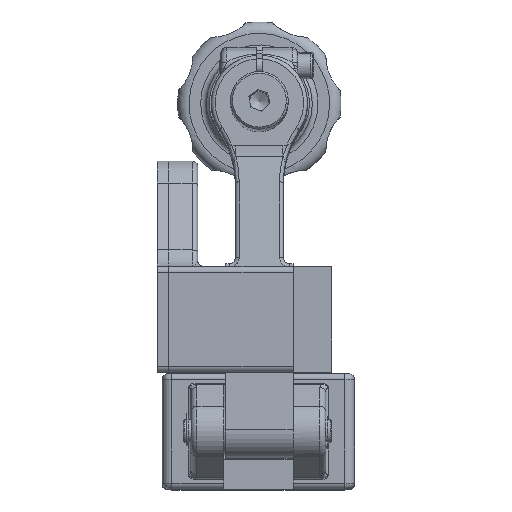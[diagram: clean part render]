
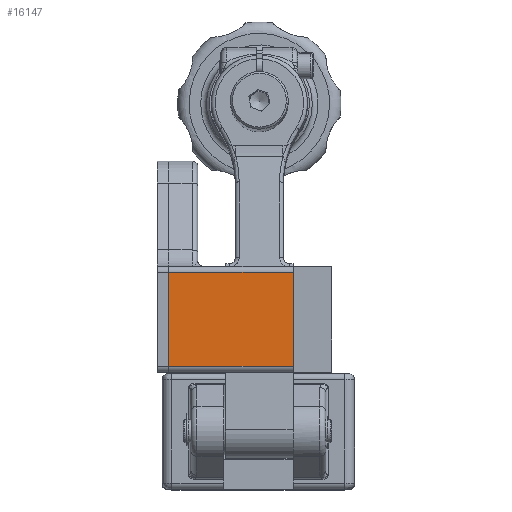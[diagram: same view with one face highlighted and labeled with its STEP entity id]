
A CAD part, top view. The second image highlights one B-rep face of the part: STEP entity #16147.
In plain terms, the highlighted planar face has unit normal (0, 0, 1).
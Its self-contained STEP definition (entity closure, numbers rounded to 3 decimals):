
#847=PLANE('',#17729);
#1534=FACE_OUTER_BOUND('',#2495,.T.);
#2495=EDGE_LOOP('',(#13070,#13071,#13072,#13073));
#2941=LINE('',#24081,#4094);
#3005=LINE('',#24260,#4158);
#3692=LINE('',#30389,#4845);
#3693=LINE('',#30390,#4846);
#4094=VECTOR('',#18806,10.);
#4158=VECTOR('',#18974,10.);
#4845=VECTOR('',#21649,10.);
#4846=VECTOR('',#21650,10.);
#6221=VERTEX_POINT('',#23885);
#6291=VERTEX_POINT('',#24056);
#6360=VERTEX_POINT('',#24253);
#6362=VERTEX_POINT('',#24259);
#7891=EDGE_CURVE('',#6291,#6221,#2941,.T.);
#7982=EDGE_CURVE('',#6360,#6362,#3005,.T.);
#9272=EDGE_CURVE('',#6221,#6360,#3692,.T.);
#9273=EDGE_CURVE('',#6362,#6291,#3693,.T.);
#13070=ORIENTED_EDGE('',*,*,#9272,.F.);
#13071=ORIENTED_EDGE('',*,*,#7891,.F.);
#13072=ORIENTED_EDGE('',*,*,#9273,.F.);
#13073=ORIENTED_EDGE('',*,*,#7982,.F.);
#16147=ADVANCED_FACE('',(#1534),#847,.T.);
#17729=AXIS2_PLACEMENT_3D('',#30388,#21647,#21648);
#18806=DIRECTION('',(0.,-1.,0.));
#18974=DIRECTION('',(0.,1.,0.));
#21647=DIRECTION('center_axis',(0.,0.,1.));
#21648=DIRECTION('ref_axis',(1.,0.,0.));
#21649=DIRECTION('',(-1.,0.,0.));
#21650=DIRECTION('',(1.,0.,0.));
#23885=CARTESIAN_POINT('',(64.5,3.,90.));
#24056=CARTESIAN_POINT('',(64.5,52.,90.));
#24081=CARTESIAN_POINT('',(64.5,0.,90.));
#24253=CARTESIAN_POINT('',(0.,3.,90.));
#24259=CARTESIAN_POINT('',(0.,52.,90.));
#24260=CARTESIAN_POINT('',(0.,110.,90.));
#30388=CARTESIAN_POINT('Origin',(24.449,47.199,90.));
#30389=CARTESIAN_POINT('',(44.475,3.,90.));
#30390=CARTESIAN_POINT('',(19.725,52.,90.));
